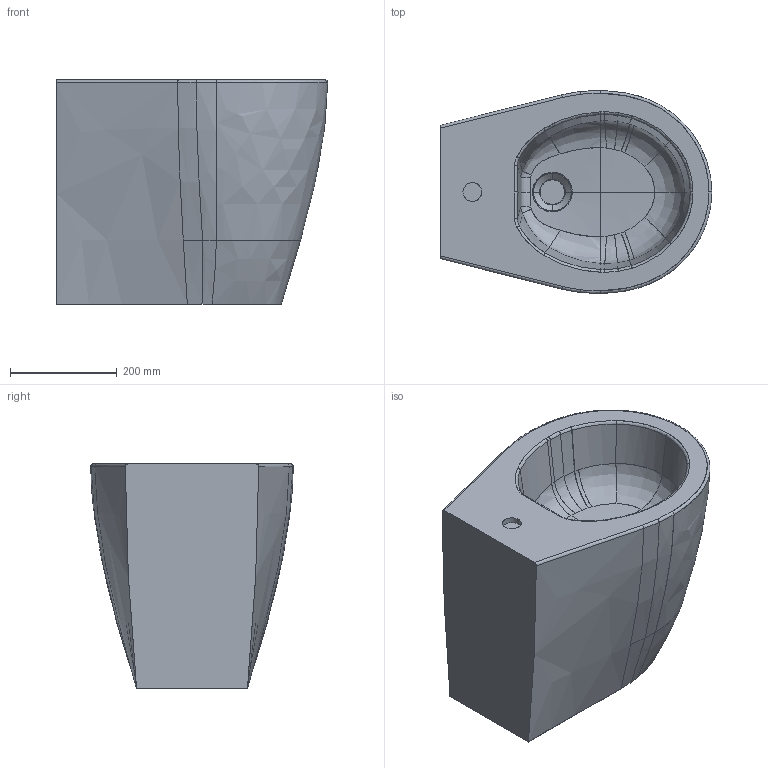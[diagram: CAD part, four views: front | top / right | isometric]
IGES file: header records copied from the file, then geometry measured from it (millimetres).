
Start section: START RECORD GO HERE.
Global section: file name: 9908_3D.igs; native system: DASSAULT SYSTEMES CATIA V5 R19 - www.3ds.com; preprocessor: CATIA Version 5 Release 19 SP 5 ; author: Luca; organization: DESKTOP-V7SON24; date: 20201127.084953; units: millimetre
Bounding box: 508.52 x 380.13 x 420 mm (x, y, z)
Surface area: 940516 mm2 (no closed solid volume)
Topology: 0 solids, 0 shells, 117 faces, 546 edges, 544 vertices
Faces by surface type: bspline 106, revolution 6, plane 5
